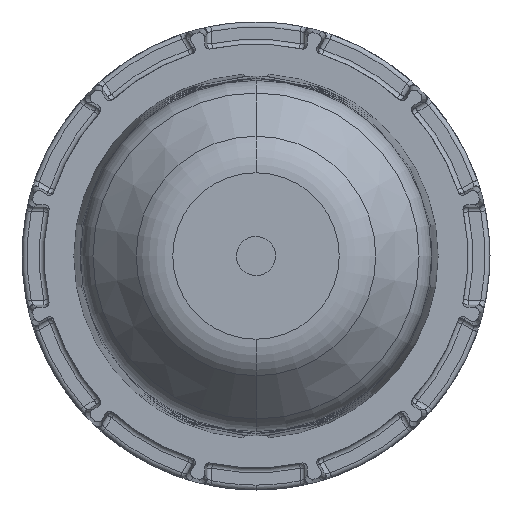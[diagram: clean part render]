
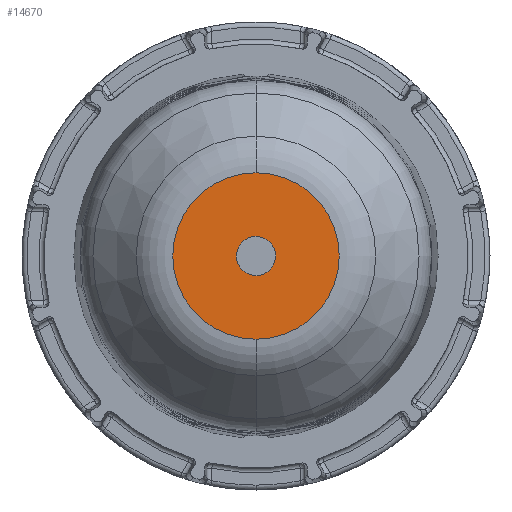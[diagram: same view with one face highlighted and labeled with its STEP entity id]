
A CAD part, front view. The second image highlights one B-rep face of the part: STEP entity #14670.
In plain terms, the highlighted planar face has unit normal (0, -1, 0).
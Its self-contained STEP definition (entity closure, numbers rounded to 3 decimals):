
#368 = DIRECTION ( 'NONE',  ( 0., 1., 0. ) ) ;
#1782 = CARTESIAN_POINT ( 'NONE',  ( 0., -16., 0. ) ) ;
#1808 = AXIS2_PLACEMENT_3D ( 'NONE', #3862, #12330, #14846 ) ;
#2074 = VERTEX_POINT ( 'NONE', #9186 ) ;
#3304 = CIRCLE ( 'NONE', #10776, 16.98 ) ;
#3528 = AXIS2_PLACEMENT_3D ( 'NONE', #13612, #368, #11241 ) ;
#3862 = CARTESIAN_POINT ( 'NONE',  ( 0., -16., 0. ) ) ;
#4232 = ORIENTED_EDGE ( 'NONE', *, *, #11792, .T. ) ;
#6589 = DIRECTION ( 'NONE',  ( 0., 0., 1. ) ) ;
#7778 = EDGE_CURVE ( 'NONE', #11237, #2074, #9350, .T. ) ;
#8242 = EDGE_LOOP ( 'NONE', ( #4232, #14311 ) ) ;
#8995 = DIRECTION ( 'NONE',  ( 0., -1., 0. ) ) ;
#9186 = CARTESIAN_POINT ( 'NONE',  ( 0., -16., 16.98 ) ) ;
#9350 = CIRCLE ( 'NONE', #1808, 16.98 ) ;
#9809 = CARTESIAN_POINT ( 'NONE',  ( 0., -16., -16.98 ) ) ;
#9906 = PLANE ( 'NONE',  #3528 ) ;
#10378 = FACE_OUTER_BOUND ( 'NONE', #8242, .T. ) ;
#10776 = AXIS2_PLACEMENT_3D ( 'NONE', #1782, #8995, #6589 ) ;
#11237 = VERTEX_POINT ( 'NONE', #9809 ) ;
#11241 = DIRECTION ( 'NONE',  ( 0., 0., 1. ) ) ;
#11792 = EDGE_CURVE ( 'NONE', #2074, #11237, #3304, .T. ) ;
#12330 = DIRECTION ( 'NONE',  ( 0., -1., 0. ) ) ;
#13612 = CARTESIAN_POINT ( 'NONE',  ( -21.455, -16., 0. ) ) ;
#14311 = ORIENTED_EDGE ( 'NONE', *, *, #7778, .T. ) ;
#14670 = ADVANCED_FACE ( 'NONE', ( #10378 ), #9906, .F. ) ;
#14846 = DIRECTION ( 'NONE',  ( 0., 0., 1. ) ) ;
